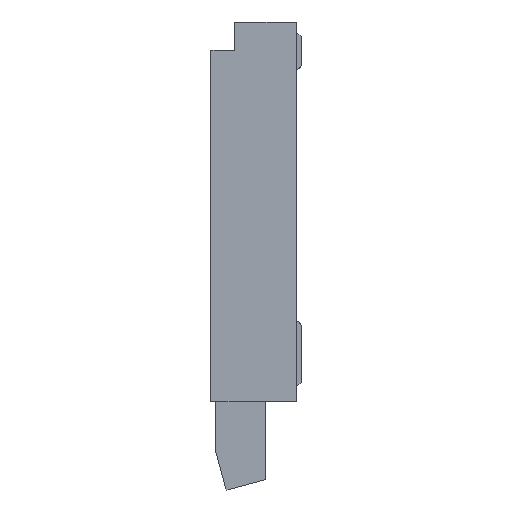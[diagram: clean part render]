
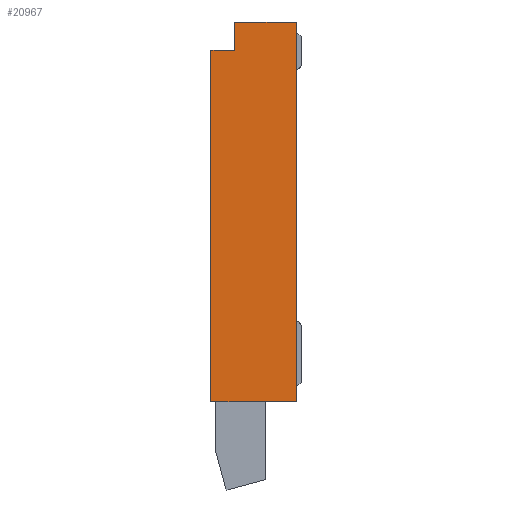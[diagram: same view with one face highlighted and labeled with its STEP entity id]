
A CAD part, left-side view. The second image highlights one B-rep face of the part: STEP entity #20967.
In plain terms, the highlighted planar face has unit normal (-1, 0, 0).
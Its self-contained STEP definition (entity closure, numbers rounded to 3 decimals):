
#2136 = VERTEX_POINT ( 'NONE', #25528 ) ;
#2156 = VERTEX_POINT ( 'NONE', #25631 ) ;
#2157 = EDGE_CURVE ( 'NONE', #2156, #2136, #25630, .T. ) ;
#2181 = EDGE_CURVE ( 'NONE', #2136, #2182, #25554, .T. ) ;
#2182 = VERTEX_POINT ( 'NONE', #25701 ) ;
#3687 = EDGE_CURVE ( 'NONE', #3705, #3688, #28316, .T. ) ;
#3688 = VERTEX_POINT ( 'NONE', #28293 ) ;
#3705 = VERTEX_POINT ( 'NONE', #28299 ) ;
#20194 = EDGE_CURVE ( 'NONE', #20237, #3705, #21692, .T. ) ;
#20237 = VERTEX_POINT ( 'NONE', #21628 ) ;
#20964 = EDGE_CURVE ( 'NONE', #20237, #2182, #22689, .T. ) ;
#20967 = ADVANCED_FACE ( 'NONE', ( #22685 ), #22684, .T. ) ;
#20968 = EDGE_LOOP ( 'NONE', ( #20970, #20972, #20975, #20978, #21263, #21264 ) ) ;
#20970 = ORIENTED_EDGE ( 'NONE', *, *, #2181, .F. ) ;
#20972 = ORIENTED_EDGE ( 'NONE', *, *, #2157, .F. ) ;
#20975 = ORIENTED_EDGE ( 'NONE', *, *, #20976, .F. ) ;
#20976 = EDGE_CURVE ( 'NONE', #3688, #2156, #22679, .T. ) ;
#20978 = ORIENTED_EDGE ( 'NONE', *, *, #3687, .F. ) ;
#21263 = ORIENTED_EDGE ( 'NONE', *, *, #20194, .F. ) ;
#21264 = ORIENTED_EDGE ( 'NONE', *, *, #20964, .T. ) ;
#21613 = DIRECTION ( 'NONE',  ( 0., -1., 0. ) ) ;
#21614 = VECTOR ( 'NONE', #21613, 1000. ) ;
#21628 = CARTESIAN_POINT ( 'NONE',  ( 0., 0.7, 0. ) ) ;
#21681 = CARTESIAN_POINT ( 'NONE',  ( 0., 0.05, 0. ) ) ;
#21692 = LINE ( 'NONE', #21681, #21614 ) ;
#22676 = DIRECTION ( 'NONE',  ( 0., 1., 0. ) ) ;
#22677 = VECTOR ( 'NONE', #22676, 1000. ) ;
#22678 = CARTESIAN_POINT ( 'NONE',  ( 0., 0.05, -4. ) ) ;
#22679 = LINE ( 'NONE', #22678, #22677 ) ;
#22680 = DIRECTION ( 'NONE',  ( 0., 0., 1. ) ) ;
#22681 = DIRECTION ( 'NONE',  ( -1., 0., 0. ) ) ;
#22682 = CARTESIAN_POINT ( 'NONE',  ( 0., 0.95, 0. ) ) ;
#22683 = AXIS2_PLACEMENT_3D ( 'NONE', #22682, #22681, #22680 ) ;
#22684 = PLANE ( 'NONE',  #22683 ) ;
#22685 = FACE_OUTER_BOUND ( 'NONE', #20968, .T. ) ;
#22686 = DIRECTION ( 'NONE',  ( 0., 0., -1. ) ) ;
#22687 = VECTOR ( 'NONE', #22686, 1000. ) ;
#22688 = CARTESIAN_POINT ( 'NONE',  ( 0., 0.7, 0. ) ) ;
#22689 = LINE ( 'NONE', #22688, #22687 ) ;
#24325 = CARTESIAN_POINT ( 'NONE',  ( 0., 0.95, -0.3 ) ) ;
#24608 = VECTOR ( 'NONE', #24772, 1000. ) ;
#24772 = DIRECTION ( 'NONE',  ( 0., -1., 0. ) ) ;
#25528 = CARTESIAN_POINT ( 'NONE',  ( 0., 0.95, -0.3 ) ) ;
#25554 = LINE ( 'NONE', #24325, #24608 ) ;
#25627 = DIRECTION ( 'NONE',  ( 0., 0., 1. ) ) ;
#25628 = VECTOR ( 'NONE', #25627, 1000. ) ;
#25629 = CARTESIAN_POINT ( 'NONE',  ( 0., 0.95, 0. ) ) ;
#25630 = LINE ( 'NONE', #25629, #25628 ) ;
#25631 = CARTESIAN_POINT ( 'NONE',  ( 0., 0.95, -4. ) ) ;
#25701 = CARTESIAN_POINT ( 'NONE',  ( 0., 0.7, -0.3 ) ) ;
#28293 = CARTESIAN_POINT ( 'NONE',  ( 0., 0.05, -4. ) ) ;
#28294 = DIRECTION ( 'NONE',  ( 0., 0., -1. ) ) ;
#28299 = CARTESIAN_POINT ( 'NONE',  ( 0., 0.05, 0. ) ) ;
#28314 = VECTOR ( 'NONE', #28294, 1000. ) ;
#28315 = CARTESIAN_POINT ( 'NONE',  ( 0., 0.05, 0. ) ) ;
#28316 = LINE ( 'NONE', #28315, #28314 ) ;
